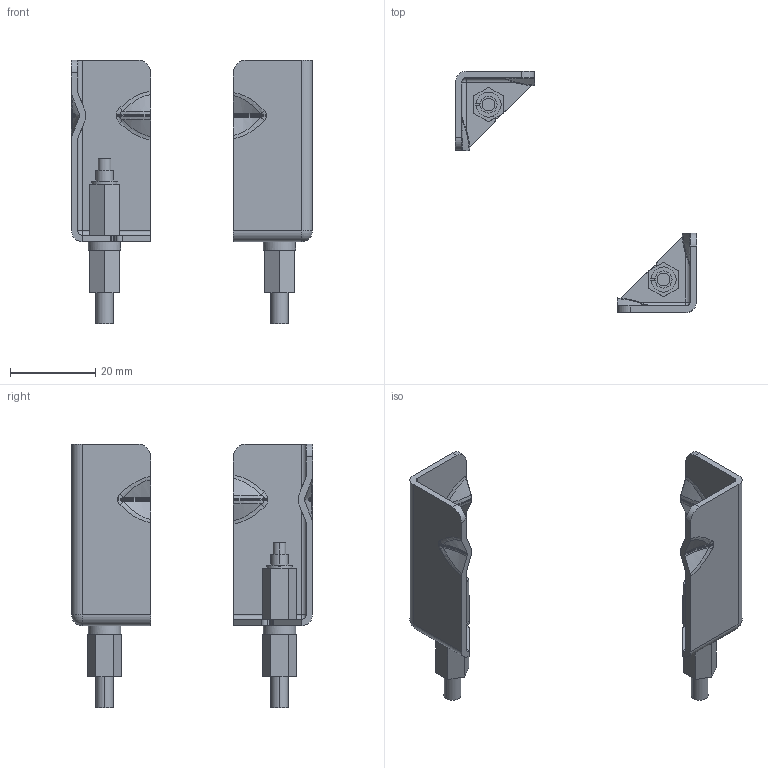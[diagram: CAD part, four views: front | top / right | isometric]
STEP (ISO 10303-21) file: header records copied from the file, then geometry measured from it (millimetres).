
FILE_DESCRIPTION((''),'2;1');
FILE_NAME('164010-50190-3D_ASM','2021-01-14T',('IB46307'),('YANMAR CO., LTD.'),'PRO/ENGINEER BY PARAMETRIC TECHNOLOGY CORPORATION, 2017170','PRO/ENGINEER BY PARAMETRIC TECHNOLOGY CORPORATION, 2017170','');
FILE_SCHEMA(('CONFIG_CONTROL_DESIGN'));
Length unit declared in the file: millimetre
Products named in the file (7): 164010-5202-3D; 164010-59120-3D; 164010-59130-3D; 164010-59140-3D; 164010-59110-3D; 164010-59100-3D; 164010-50190-3D_ASM
Assembly tree (12 placements, depth 2):
  164010-50190-3D_ASM
    164010-5202-3D  x2
    164010-59120-3D  x2
    164010-59130-3D  x2
    164010-59140-3D  x2
    164010-59110-3D  x2
    164010-59100-3D  x2
Bounding box: 56.51 x 56.51 x 61.85 mm (x, y, z)
Volume: 7207.5 mm3; surface area: 9637.7 mm2
Topology: 12 solids, 12 shells, 280 faces, 720 edges, 464 vertices
Faces by surface type: plane 94, bspline 80, cylinder 78, cone 16, revolution 8, sphere 4
Entity records: 5458 total; most frequent: CARTESIAN_POINT 2111, ORIENTED_EDGE 716, DIRECTION 586, EDGE_CURVE 358, VERTEX_POINT 232, AXIS2_PLACEMENT_3D 219, EDGE_LOOP 146, VECTOR 144
